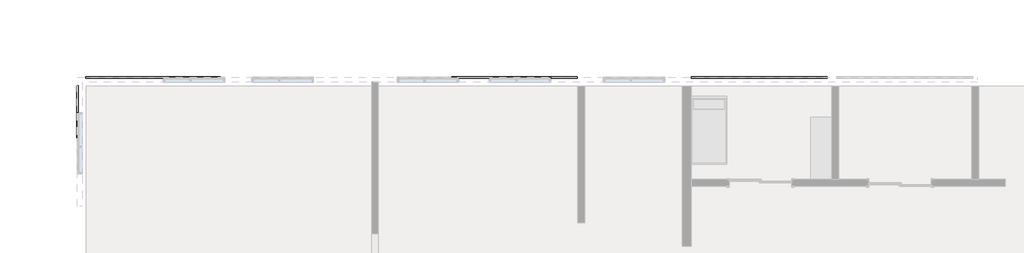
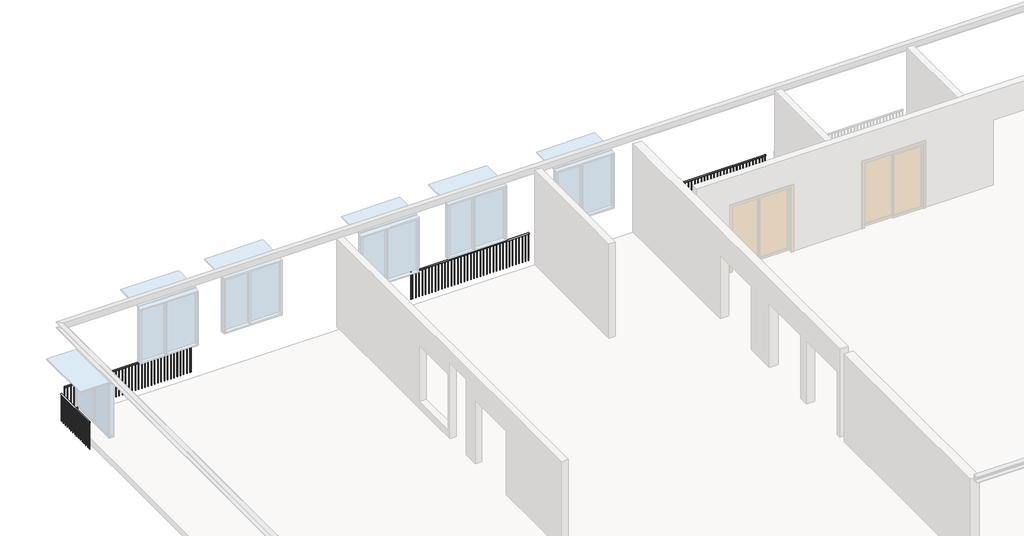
# One storey, part 4 of 5: 4 railings.
"""IFC4 building model written with IfcOpenShell, lengths in millimetres."""

from ifc_helpers import new_model, si_unit, point, frame, frame_2d, origin, place, context, project, spatial, polyline, circle_curve, trimmed, segment, composite_curve, outline, extrude, element, save

model = new_model("IFC4")

# Units and contexts
model_context = context("Model", 3, world=origin())
ifc_project = project(units=[si_unit("LENGTHUNIT", "METRE", prefix="MILLI")], contexts=[model_context])

# Site, building, storey
site = spatial("IfcSite", under=ifc_project)
building = spatial("IfcBuilding", under=site)
storey = spatial("IfcBuildingStorey", under=building, Name="3階", Elevation=36100.0)

# Railings
placement = place(None, origin())
element("IfcRailing", 1, ObjectType="900mm", at=placement, inside=storey, context=model_context, shape_type="SweptSolid", body=[
    extrude(outline(composite_curve([segment(trimmed(circle_curve(frame_2d((18700.0, 36980.0)), 20.0), [point((18680.0, 36980.0))], [point((18720.0, 36980.0))], False, "CARTESIAN"), True, "CONTINUOUS"), segment(trimmed(circle_curve(frame_2d((18700.0, 36980.0)), 20.0), [point((18720.0, 36980.0))], [point((18680.0, 36980.0))], False, "CARTESIAN"), True, "CONTINUOUS")], self_intersect=False)), frame((20364.6062665, 0.0, 0.0), z_axis=(1.0, 0.0, 0.0), x_axis=(0.0, 1.0, 0.0)), (0.0, 0.0, 1.0), 3988.7971578),
    extrude(outline(polyline([(24259.6062665, 18695.0), (24259.6062665, 18705.0), (24269.6062665, 18705.0), (24269.6062665, 18695.0), (24259.6062665, 18695.0)])), frame((0.0, 0.0, 36100.0), z_axis=(0.0, 0.0, 1.0), x_axis=(1.0, 0.0, 0.0)), (0.0, 0.0, 1.0), 860.0),
    extrude(outline(polyline([(24159.6062665, 18695.0), (24159.6062665, 18705.0), (24169.6062665, 18705.0), (24169.6062665, 18695.0), (24159.6062665, 18695.0)])), frame((0.0, 0.0, 36100.0), z_axis=(0.0, 0.0, 1.0), x_axis=(1.0, 0.0, 0.0)), (0.0, 0.0, 1.0), 860.0),
    extrude(outline(polyline([(24059.6062665, 18695.0), (24059.6062665, 18705.0), (24069.6062665, 18705.0), (24069.6062665, 18695.0), (24059.6062665, 18695.0)])), frame((0.0, 0.0, 36100.0), z_axis=(0.0, 0.0, 1.0), x_axis=(1.0, 0.0, 0.0)), (0.0, 0.0, 1.0), 860.0),
    extrude(outline(polyline([(23959.6062665, 18695.0), (23959.6062665, 18705.0), (23969.6062665, 18705.0), (23969.6062665, 18695.0), (23959.6062665, 18695.0)])), frame((0.0, 0.0, 36100.0), z_axis=(0.0, 0.0, 1.0), x_axis=(1.0, 0.0, 0.0)), (0.0, 0.0, 1.0), 860.0),
    extrude(outline(polyline([(23859.6062665, 18695.0), (23859.6062665, 18705.0), (23869.6062665, 18705.0), (23869.6062665, 18695.0), (23859.6062665, 18695.0)])), frame((0.0, 0.0, 36100.0), z_axis=(0.0, 0.0, 1.0), x_axis=(1.0, 0.0, 0.0)), (0.0, 0.0, 1.0), 860.0),
    extrude(outline(polyline([(23759.6062665, 18695.0), (23759.6062665, 18705.0), (23769.6062665, 18705.0), (23769.6062665, 18695.0), (23759.6062665, 18695.0)])), frame((0.0, 0.0, 36100.0), z_axis=(0.0, 0.0, 1.0), x_axis=(1.0, 0.0, 0.0)), (0.0, 0.0, 1.0), 860.0),
    extrude(outline(polyline([(23659.6062665, 18695.0), (23659.6062665, 18705.0), (23669.6062665, 18705.0), (23669.6062665, 18695.0), (23659.6062665, 18695.0)])), frame((0.0, 0.0, 36100.0), z_axis=(0.0, 0.0, 1.0), x_axis=(1.0, 0.0, 0.0)), (0.0, 0.0, 1.0), 860.0),
    extrude(outline(polyline([(23559.6062665, 18695.0), (23559.6062665, 18705.0), (23569.6062665, 18705.0), (23569.6062665, 18695.0), (23559.6062665, 18695.0)])), frame((0.0, 0.0, 36100.0), z_axis=(0.0, 0.0, 1.0), x_axis=(1.0, 0.0, 0.0)), (0.0, 0.0, 1.0), 860.0),
    extrude(outline(polyline([(23459.6062665, 18695.0), (23459.6062665, 18705.0), (23469.6062665, 18705.0), (23469.6062665, 18695.0), (23459.6062665, 18695.0)])), frame((0.0, 0.0, 36100.0), z_axis=(0.0, 0.0, 1.0), x_axis=(1.0, 0.0, 0.0)), (0.0, 0.0, 1.0), 860.0),
    extrude(outline(polyline([(23359.6062665, 18695.0), (23359.6062665, 18705.0), (23369.6062665, 18705.0), (23369.6062665, 18695.0), (23359.6062665, 18695.0)])), frame((0.0, 0.0, 36100.0), z_axis=(0.0, 0.0, 1.0), x_axis=(1.0, 0.0, 0.0)), (0.0, 0.0, 1.0), 860.0),
    extrude(outline(polyline([(23259.6062665, 18695.0), (23259.6062665, 18705.0), (23269.6062665, 18705.0), (23269.6062665, 18695.0), (23259.6062665, 18695.0)])), frame((0.0, 0.0, 36100.0), z_axis=(0.0, 0.0, 1.0), x_axis=(1.0, 0.0, 0.0)), (0.0, 0.0, 1.0), 860.0),
    extrude(outline(polyline([(23159.6062665, 18695.0), (23159.6062665, 18705.0), (23169.6062665, 18705.0), (23169.6062665, 18695.0), (23159.6062665, 18695.0)])), frame((0.0, 0.0, 36100.0), z_axis=(0.0, 0.0, 1.0), x_axis=(1.0, 0.0, 0.0)), (0.0, 0.0, 1.0), 860.0),
    extrude(outline(polyline([(23059.6062665, 18695.0), (23059.6062665, 18705.0), (23069.6062665, 18705.0), (23069.6062665, 18695.0), (23059.6062665, 18695.0)])), frame((0.0, 0.0, 36100.0), z_axis=(0.0, 0.0, 1.0), x_axis=(1.0, 0.0, 0.0)), (0.0, 0.0, 1.0), 860.0),
    extrude(outline(polyline([(22959.6062665, 18695.0), (22959.6062665, 18705.0), (22969.6062665, 18705.0), (22969.6062665, 18695.0), (22959.6062665, 18695.0)])), frame((0.0, 0.0, 36100.0), z_axis=(0.0, 0.0, 1.0), x_axis=(1.0, 0.0, 0.0)), (0.0, 0.0, 1.0), 860.0),
    extrude(outline(polyline([(22859.6062665, 18695.0), (22859.6062665, 18705.0), (22869.6062665, 18705.0), (22869.6062665, 18695.0), (22859.6062665, 18695.0)])), frame((0.0, 0.0, 36100.0), z_axis=(0.0, 0.0, 1.0), x_axis=(1.0, 0.0, 0.0)), (0.0, 0.0, 1.0), 860.0),
    extrude(outline(polyline([(22759.6062665, 18695.0), (22759.6062665, 18705.0), (22769.6062665, 18705.0), (22769.6062665, 18695.0), (22759.6062665, 18695.0)])), frame((0.0, 0.0, 36100.0), z_axis=(0.0, 0.0, 1.0), x_axis=(1.0, 0.0, 0.0)), (0.0, 0.0, 1.0), 860.0),
    extrude(outline(polyline([(22659.6062665, 18695.0), (22659.6062665, 18705.0), (22669.6062665, 18705.0), (22669.6062665, 18695.0), (22659.6062665, 18695.0)])), frame((0.0, 0.0, 36100.0), z_axis=(0.0, 0.0, 1.0), x_axis=(1.0, 0.0, 0.0)), (0.0, 0.0, 1.0), 860.0),
    extrude(outline(polyline([(22559.6062665, 18695.0), (22559.6062665, 18705.0), (22569.6062665, 18705.0), (22569.6062665, 18695.0), (22559.6062665, 18695.0)])), frame((0.0, 0.0, 36100.0), z_axis=(0.0, 0.0, 1.0), x_axis=(1.0, 0.0, 0.0)), (0.0, 0.0, 1.0), 860.0),
    extrude(outline(polyline([(22459.6062665, 18695.0), (22459.6062665, 18705.0), (22469.6062665, 18705.0), (22469.6062665, 18695.0), (22459.6062665, 18695.0)])), frame((0.0, 0.0, 36100.0), z_axis=(0.0, 0.0, 1.0), x_axis=(1.0, 0.0, 0.0)), (0.0, 0.0, 1.0), 860.0),
    extrude(outline(polyline([(22359.6062665, 18695.0), (22359.6062665, 18705.0), (22369.6062665, 18705.0), (22369.6062665, 18695.0), (22359.6062665, 18695.0)])), frame((0.0, 0.0, 36100.0), z_axis=(0.0, 0.0, 1.0), x_axis=(1.0, 0.0, 0.0)), (0.0, 0.0, 1.0), 860.0),
    extrude(outline(polyline([(22259.6062665, 18695.0), (22259.6062665, 18705.0), (22269.6062665, 18705.0), (22269.6062665, 18695.0), (22259.6062665, 18695.0)])), frame((0.0, 0.0, 36100.0), z_axis=(0.0, 0.0, 1.0), x_axis=(1.0, 0.0, 0.0)), (0.0, 0.0, 1.0), 860.0),
    extrude(outline(polyline([(22159.6062665, 18695.0), (22159.6062665, 18705.0), (22169.6062665, 18705.0), (22169.6062665, 18695.0), (22159.6062665, 18695.0)])), frame((0.0, 0.0, 36100.0), z_axis=(0.0, 0.0, 1.0), x_axis=(1.0, 0.0, 0.0)), (0.0, 0.0, 1.0), 860.0),
    extrude(outline(polyline([(22059.6062665, 18695.0), (22059.6062665, 18705.0), (22069.6062665, 18705.0), (22069.6062665, 18695.0), (22059.6062665, 18695.0)])), frame((0.0, 0.0, 36100.0), z_axis=(0.0, 0.0, 1.0), x_axis=(1.0, 0.0, 0.0)), (0.0, 0.0, 1.0), 860.0),
    extrude(outline(polyline([(21959.6062665, 18695.0), (21959.6062665, 18705.0), (21969.6062665, 18705.0), (21969.6062665, 18695.0), (21959.6062665, 18695.0)])), frame((0.0, 0.0, 36100.0), z_axis=(0.0, 0.0, 1.0), x_axis=(1.0, 0.0, 0.0)), (0.0, 0.0, 1.0), 860.0),
    extrude(outline(polyline([(21859.6062665, 18695.0), (21859.6062665, 18705.0), (21869.6062665, 18705.0), (21869.6062665, 18695.0), (21859.6062665, 18695.0)])), frame((0.0, 0.0, 36100.0), z_axis=(0.0, 0.0, 1.0), x_axis=(1.0, 0.0, 0.0)), (0.0, 0.0, 1.0), 860.0),
    extrude(outline(polyline([(21759.6062665, 18695.0), (21759.6062665, 18705.0), (21769.6062665, 18705.0), (21769.6062665, 18695.0), (21759.6062665, 18695.0)])), frame((0.0, 0.0, 36100.0), z_axis=(0.0, 0.0, 1.0), x_axis=(1.0, 0.0, 0.0)), (0.0, 0.0, 1.0), 860.0),
    extrude(outline(polyline([(21659.6062665, 18695.0), (21659.6062665, 18705.0), (21669.6062665, 18705.0), (21669.6062665, 18695.0), (21659.6062665, 18695.0)])), frame((0.0, 0.0, 36100.0), z_axis=(0.0, 0.0, 1.0), x_axis=(1.0, 0.0, 0.0)), (0.0, 0.0, 1.0), 860.0),
    extrude(outline(polyline([(21559.6062665, 18695.0), (21559.6062665, 18705.0), (21569.6062665, 18705.0), (21569.6062665, 18695.0), (21559.6062665, 18695.0)])), frame((0.0, 0.0, 36100.0), z_axis=(0.0, 0.0, 1.0), x_axis=(1.0, 0.0, 0.0)), (0.0, 0.0, 1.0), 860.0),
    extrude(outline(polyline([(21459.6062665, 18695.0), (21459.6062665, 18705.0), (21469.6062665, 18705.0), (21469.6062665, 18695.0), (21459.6062665, 18695.0)])), frame((0.0, 0.0, 36100.0), z_axis=(0.0, 0.0, 1.0), x_axis=(1.0, 0.0, 0.0)), (0.0, 0.0, 1.0), 860.0),
    extrude(outline(polyline([(21359.6062665, 18695.0), (21359.6062665, 18705.0), (21369.6062665, 18705.0), (21369.6062665, 18695.0), (21359.6062665, 18695.0)])), frame((0.0, 0.0, 36100.0), z_axis=(0.0, 0.0, 1.0), x_axis=(1.0, 0.0, 0.0)), (0.0, 0.0, 1.0), 860.0),
    extrude(outline(polyline([(21259.6062665, 18695.0), (21259.6062665, 18705.0), (21269.6062665, 18705.0), (21269.6062665, 18695.0), (21259.6062665, 18695.0)])), frame((0.0, 0.0, 36100.0), z_axis=(0.0, 0.0, 1.0), x_axis=(1.0, 0.0, 0.0)), (0.0, 0.0, 1.0), 860.0),
    extrude(outline(polyline([(21159.6062665, 18695.0), (21159.6062665, 18705.0), (21169.6062665, 18705.0), (21169.6062665, 18695.0), (21159.6062665, 18695.0)])), frame((0.0, 0.0, 36100.0), z_axis=(0.0, 0.0, 1.0), x_axis=(1.0, 0.0, 0.0)), (0.0, 0.0, 1.0), 860.0),
    extrude(outline(polyline([(21059.6062665, 18695.0), (21059.6062665, 18705.0), (21069.6062665, 18705.0), (21069.6062665, 18695.0), (21059.6062665, 18695.0)])), frame((0.0, 0.0, 36100.0), z_axis=(0.0, 0.0, 1.0), x_axis=(1.0, 0.0, 0.0)), (0.0, 0.0, 1.0), 860.0),
    extrude(outline(polyline([(20959.6062665, 18695.0), (20959.6062665, 18705.0), (20969.6062665, 18705.0), (20969.6062665, 18695.0), (20959.6062665, 18695.0)])), frame((0.0, 0.0, 36100.0), z_axis=(0.0, 0.0, 1.0), x_axis=(1.0, 0.0, 0.0)), (0.0, 0.0, 1.0), 860.0),
    extrude(outline(polyline([(20859.6062665, 18695.0), (20859.6062665, 18705.0), (20869.6062665, 18705.0), (20869.6062665, 18695.0), (20859.6062665, 18695.0)])), frame((0.0, 0.0, 36100.0), z_axis=(0.0, 0.0, 1.0), x_axis=(1.0, 0.0, 0.0)), (0.0, 0.0, 1.0), 860.0),
    extrude(outline(polyline([(20759.6062665, 18695.0), (20759.6062665, 18705.0), (20769.6062665, 18705.0), (20769.6062665, 18695.0), (20759.6062665, 18695.0)])), frame((0.0, 0.0, 36100.0), z_axis=(0.0, 0.0, 1.0), x_axis=(1.0, 0.0, 0.0)), (0.0, 0.0, 1.0), 860.0),
    extrude(outline(polyline([(20659.6062665, 18695.0), (20659.6062665, 18705.0), (20669.6062665, 18705.0), (20669.6062665, 18695.0), (20659.6062665, 18695.0)])), frame((0.0, 0.0, 36100.0), z_axis=(0.0, 0.0, 1.0), x_axis=(1.0, 0.0, 0.0)), (0.0, 0.0, 1.0), 860.0),
    extrude(outline(polyline([(20559.6062665, 18695.0), (20559.6062665, 18705.0), (20569.6062665, 18705.0), (20569.6062665, 18695.0), (20559.6062665, 18695.0)])), frame((0.0, 0.0, 36100.0), z_axis=(0.0, 0.0, 1.0), x_axis=(1.0, 0.0, 0.0)), (0.0, 0.0, 1.0), 860.0),
    extrude(outline(polyline([(20459.6062665, 18695.0), (20459.6062665, 18705.0), (20469.6062665, 18705.0), (20469.6062665, 18695.0), (20459.6062665, 18695.0)])), frame((0.0, 0.0, 36100.0), z_axis=(0.0, 0.0, 1.0), x_axis=(1.0, 0.0, 0.0)), (0.0, 0.0, 1.0), 860.0),
    extrude(outline(polyline([(24338.4034243, 18695.0), (24338.4034243, 18705.0), (24348.4034243, 18705.0), (24348.4034243, 18695.0), (24338.4034243, 18695.0)])), frame((0.0, 0.0, 36100.0), z_axis=(0.0, 0.0, 1.0), x_axis=(1.0, 0.0, 0.0)), (0.0, 0.0, 1.0), 860.0),
    extrude(outline(polyline([(20369.6062665, 18695.0), (20369.6062665, 18705.0), (20379.6062665, 18705.0), (20379.6062665, 18695.0), (20369.6062665, 18695.0)])), frame((0.0, 0.0, 36100.0), z_axis=(0.0, 0.0, 1.0), x_axis=(1.0, 0.0, 0.0)), (0.0, 0.0, 1.0), 860.0),
])
element("IfcRailing", 2, ObjectType="900mm", at=placement, inside=storey, context=model_context, shape_type="SweptSolid", body=[
    extrude(outline(composite_curve([segment(trimmed(circle_curve(frame_2d((18700.0, 36980.0)), 20.0), [point((18680.0, 36980.0))], [point((18720.0, 36980.0))], False, "CARTESIAN"), True, "CONTINUOUS"), segment(trimmed(circle_curve(frame_2d((18700.0, 36980.0)), 20.0), [point((18720.0, 36980.0))], [point((18680.0, 36980.0))], False, "CARTESIAN"), True, "CONTINUOUS")], self_intersect=False)), frame((2614.6057353, 0.0, 0.0), z_axis=(1.0, 0.0, 0.0), x_axis=(0.0, 1.0, 0.0)), (0.0, 0.0, 1.0), 3940.0588639),
    extrude(outline(polyline([(6509.6057353, 18695.0), (6509.6057353, 18705.0), (6519.6057353, 18705.0), (6519.6057353, 18695.0), (6509.6057353, 18695.0)])), frame((0.0, 0.0, 36100.0), z_axis=(0.0, 0.0, 1.0), x_axis=(1.0, 0.0, 0.0)), (0.0, 0.0, 1.0), 860.0),
    extrude(outline(polyline([(6409.6057353, 18695.0), (6409.6057353, 18705.0), (6419.6057353, 18705.0), (6419.6057353, 18695.0), (6409.6057353, 18695.0)])), frame((0.0, 0.0, 36100.0), z_axis=(0.0, 0.0, 1.0), x_axis=(1.0, 0.0, 0.0)), (0.0, 0.0, 1.0), 860.0),
    extrude(outline(polyline([(6309.6057353, 18695.0), (6309.6057353, 18705.0), (6319.6057353, 18705.0), (6319.6057353, 18695.0), (6309.6057353, 18695.0)])), frame((0.0, 0.0, 36100.0), z_axis=(0.0, 0.0, 1.0), x_axis=(1.0, 0.0, 0.0)), (0.0, 0.0, 1.0), 860.0),
    extrude(outline(polyline([(6209.6057353, 18695.0), (6209.6057353, 18705.0), (6219.6057353, 18705.0), (6219.6057353, 18695.0), (6209.6057353, 18695.0)])), frame((0.0, 0.0, 36100.0), z_axis=(0.0, 0.0, 1.0), x_axis=(1.0, 0.0, 0.0)), (0.0, 0.0, 1.0), 860.0),
    extrude(outline(polyline([(6109.6057353, 18695.0), (6109.6057353, 18705.0), (6119.6057353, 18705.0), (6119.6057353, 18695.0), (6109.6057353, 18695.0)])), frame((0.0, 0.0, 36100.0), z_axis=(0.0, 0.0, 1.0), x_axis=(1.0, 0.0, 0.0)), (0.0, 0.0, 1.0), 860.0),
    extrude(outline(polyline([(6009.6057353, 18695.0), (6009.6057353, 18705.0), (6019.6057353, 18705.0), (6019.6057353, 18695.0), (6009.6057353, 18695.0)])), frame((0.0, 0.0, 36100.0), z_axis=(0.0, 0.0, 1.0), x_axis=(1.0, 0.0, 0.0)), (0.0, 0.0, 1.0), 860.0),
    extrude(outline(polyline([(5909.6057353, 18695.0), (5909.6057353, 18705.0), (5919.6057353, 18705.0), (5919.6057353, 18695.0), (5909.6057353, 18695.0)])), frame((0.0, 0.0, 36100.0), z_axis=(0.0, 0.0, 1.0), x_axis=(1.0, 0.0, 0.0)), (0.0, 0.0, 1.0), 860.0),
    extrude(outline(polyline([(5809.6057353, 18695.0), (5809.6057353, 18705.0), (5819.6057353, 18705.0), (5819.6057353, 18695.0), (5809.6057353, 18695.0)])), frame((0.0, 0.0, 36100.0), z_axis=(0.0, 0.0, 1.0), x_axis=(1.0, 0.0, 0.0)), (0.0, 0.0, 1.0), 860.0),
    extrude(outline(polyline([(5709.6057353, 18695.0), (5709.6057353, 18705.0), (5719.6057353, 18705.0), (5719.6057353, 18695.0), (5709.6057353, 18695.0)])), frame((0.0, 0.0, 36100.0), z_axis=(0.0, 0.0, 1.0), x_axis=(1.0, 0.0, 0.0)), (0.0, 0.0, 1.0), 860.0),
    extrude(outline(polyline([(5609.6057353, 18695.0), (5609.6057353, 18705.0), (5619.6057353, 18705.0), (5619.6057353, 18695.0), (5609.6057353, 18695.0)])), frame((0.0, 0.0, 36100.0), z_axis=(0.0, 0.0, 1.0), x_axis=(1.0, 0.0, 0.0)), (0.0, 0.0, 1.0), 860.0),
    extrude(outline(polyline([(5509.6057353, 18695.0), (5509.6057353, 18705.0), (5519.6057353, 18705.0), (5519.6057353, 18695.0), (5509.6057353, 18695.0)])), frame((0.0, 0.0, 36100.0), z_axis=(0.0, 0.0, 1.0), x_axis=(1.0, 0.0, 0.0)), (0.0, 0.0, 1.0), 860.0),
    extrude(outline(polyline([(5409.6057353, 18695.0), (5409.6057353, 18705.0), (5419.6057353, 18705.0), (5419.6057353, 18695.0), (5409.6057353, 18695.0)])), frame((0.0, 0.0, 36100.0), z_axis=(0.0, 0.0, 1.0), x_axis=(1.0, 0.0, 0.0)), (0.0, 0.0, 1.0), 860.0),
    extrude(outline(polyline([(5309.6057353, 18695.0), (5309.6057353, 18705.0), (5319.6057353, 18705.0), (5319.6057353, 18695.0), (5309.6057353, 18695.0)])), frame((0.0, 0.0, 36100.0), z_axis=(0.0, 0.0, 1.0), x_axis=(1.0, 0.0, 0.0)), (0.0, 0.0, 1.0), 860.0),
    extrude(outline(polyline([(5209.6057353, 18695.0), (5209.6057353, 18705.0), (5219.6057353, 18705.0), (5219.6057353, 18695.0), (5209.6057353, 18695.0)])), frame((0.0, 0.0, 36100.0), z_axis=(0.0, 0.0, 1.0), x_axis=(1.0, 0.0, 0.0)), (0.0, 0.0, 1.0), 860.0),
    extrude(outline(polyline([(5109.6057353, 18695.0), (5109.6057353, 18705.0), (5119.6057353, 18705.0), (5119.6057353, 18695.0), (5109.6057353, 18695.0)])), frame((0.0, 0.0, 36100.0), z_axis=(0.0, 0.0, 1.0), x_axis=(1.0, 0.0, 0.0)), (0.0, 0.0, 1.0), 860.0),
    extrude(outline(polyline([(5009.6057353, 18695.0), (5009.6057353, 18705.0), (5019.6057353, 18705.0), (5019.6057353, 18695.0), (5009.6057353, 18695.0)])), frame((0.0, 0.0, 36100.0), z_axis=(0.0, 0.0, 1.0), x_axis=(1.0, 0.0, 0.0)), (0.0, 0.0, 1.0), 860.0),
    extrude(outline(polyline([(4909.6057353, 18695.0), (4909.6057353, 18705.0), (4919.6057353, 18705.0), (4919.6057353, 18695.0), (4909.6057353, 18695.0)])), frame((0.0, 0.0, 36100.0), z_axis=(0.0, 0.0, 1.0), x_axis=(1.0, 0.0, 0.0)), (0.0, 0.0, 1.0), 860.0),
    extrude(outline(polyline([(4809.6057353, 18695.0), (4809.6057353, 18705.0), (4819.6057353, 18705.0), (4819.6057353, 18695.0), (4809.6057353, 18695.0)])), frame((0.0, 0.0, 36100.0), z_axis=(0.0, 0.0, 1.0), x_axis=(1.0, 0.0, 0.0)), (0.0, 0.0, 1.0), 860.0),
    extrude(outline(polyline([(4709.6057353, 18695.0), (4709.6057353, 18705.0), (4719.6057353, 18705.0), (4719.6057353, 18695.0), (4709.6057353, 18695.0)])), frame((0.0, 0.0, 36100.0), z_axis=(0.0, 0.0, 1.0), x_axis=(1.0, 0.0, 0.0)), (0.0, 0.0, 1.0), 860.0),
    extrude(outline(polyline([(4609.6057353, 18695.0), (4609.6057353, 18705.0), (4619.6057353, 18705.0), (4619.6057353, 18695.0), (4609.6057353, 18695.0)])), frame((0.0, 0.0, 36100.0), z_axis=(0.0, 0.0, 1.0), x_axis=(1.0, 0.0, 0.0)), (0.0, 0.0, 1.0), 860.0),
    extrude(outline(polyline([(4509.6057353, 18695.0), (4509.6057353, 18705.0), (4519.6057353, 18705.0), (4519.6057353, 18695.0), (4509.6057353, 18695.0)])), frame((0.0, 0.0, 36100.0), z_axis=(0.0, 0.0, 1.0), x_axis=(1.0, 0.0, 0.0)), (0.0, 0.0, 1.0), 860.0),
    extrude(outline(polyline([(4409.6057353, 18695.0), (4409.6057353, 18705.0), (4419.6057353, 18705.0), (4419.6057353, 18695.0), (4409.6057353, 18695.0)])), frame((0.0, 0.0, 36100.0), z_axis=(0.0, 0.0, 1.0), x_axis=(1.0, 0.0, 0.0)), (0.0, 0.0, 1.0), 860.0),
    extrude(outline(polyline([(4309.6057353, 18695.0), (4309.6057353, 18705.0), (4319.6057353, 18705.0), (4319.6057353, 18695.0), (4309.6057353, 18695.0)])), frame((0.0, 0.0, 36100.0), z_axis=(0.0, 0.0, 1.0), x_axis=(1.0, 0.0, 0.0)), (0.0, 0.0, 1.0), 860.0),
    extrude(outline(polyline([(4209.6057353, 18695.0), (4209.6057353, 18705.0), (4219.6057353, 18705.0), (4219.6057353, 18695.0), (4209.6057353, 18695.0)])), frame((0.0, 0.0, 36100.0), z_axis=(0.0, 0.0, 1.0), x_axis=(1.0, 0.0, 0.0)), (0.0, 0.0, 1.0), 860.0),
    extrude(outline(polyline([(4109.6057353, 18695.0), (4109.6057353, 18705.0), (4119.6057353, 18705.0), (4119.6057353, 18695.0), (4109.6057353, 18695.0)])), frame((0.0, 0.0, 36100.0), z_axis=(0.0, 0.0, 1.0), x_axis=(1.0, 0.0, 0.0)), (0.0, 0.0, 1.0), 860.0),
    extrude(outline(polyline([(4009.6057353, 18695.0), (4009.6057353, 18705.0), (4019.6057353, 18705.0), (4019.6057353, 18695.0), (4009.6057353, 18695.0)])), frame((0.0, 0.0, 36100.0), z_axis=(0.0, 0.0, 1.0), x_axis=(1.0, 0.0, 0.0)), (0.0, 0.0, 1.0), 860.0),
    extrude(outline(polyline([(3909.6057353, 18695.0), (3909.6057353, 18705.0), (3919.6057353, 18705.0), (3919.6057353, 18695.0), (3909.6057353, 18695.0)])), frame((0.0, 0.0, 36100.0), z_axis=(0.0, 0.0, 1.0), x_axis=(1.0, 0.0, 0.0)), (0.0, 0.0, 1.0), 860.0),
    extrude(outline(polyline([(3809.6057353, 18695.0), (3809.6057353, 18705.0), (3819.6057353, 18705.0), (3819.6057353, 18695.0), (3809.6057353, 18695.0)])), frame((0.0, 0.0, 36100.0), z_axis=(0.0, 0.0, 1.0), x_axis=(1.0, 0.0, 0.0)), (0.0, 0.0, 1.0), 860.0),
    extrude(outline(polyline([(3709.6057353, 18695.0), (3709.6057353, 18705.0), (3719.6057353, 18705.0), (3719.6057353, 18695.0), (3709.6057353, 18695.0)])), frame((0.0, 0.0, 36100.0), z_axis=(0.0, 0.0, 1.0), x_axis=(1.0, 0.0, 0.0)), (0.0, 0.0, 1.0), 860.0),
    extrude(outline(polyline([(3609.6057353, 18695.0), (3609.6057353, 18705.0), (3619.6057353, 18705.0), (3619.6057353, 18695.0), (3609.6057353, 18695.0)])), frame((0.0, 0.0, 36100.0), z_axis=(0.0, 0.0, 1.0), x_axis=(1.0, 0.0, 0.0)), (0.0, 0.0, 1.0), 860.0),
    extrude(outline(polyline([(3509.6057353, 18695.0), (3509.6057353, 18705.0), (3519.6057353, 18705.0), (3519.6057353, 18695.0), (3509.6057353, 18695.0)])), frame((0.0, 0.0, 36100.0), z_axis=(0.0, 0.0, 1.0), x_axis=(1.0, 0.0, 0.0)), (0.0, 0.0, 1.0), 860.0),
    extrude(outline(polyline([(3409.6057353, 18695.0), (3409.6057353, 18705.0), (3419.6057353, 18705.0), (3419.6057353, 18695.0), (3409.6057353, 18695.0)])), frame((0.0, 0.0, 36100.0), z_axis=(0.0, 0.0, 1.0), x_axis=(1.0, 0.0, 0.0)), (0.0, 0.0, 1.0), 860.0),
    extrude(outline(polyline([(3309.6057353, 18695.0), (3309.6057353, 18705.0), (3319.6057353, 18705.0), (3319.6057353, 18695.0), (3309.6057353, 18695.0)])), frame((0.0, 0.0, 36100.0), z_axis=(0.0, 0.0, 1.0), x_axis=(1.0, 0.0, 0.0)), (0.0, 0.0, 1.0), 860.0),
    extrude(outline(polyline([(3209.6057353, 18695.0), (3209.6057353, 18705.0), (3219.6057353, 18705.0), (3219.6057353, 18695.0), (3209.6057353, 18695.0)])), frame((0.0, 0.0, 36100.0), z_axis=(0.0, 0.0, 1.0), x_axis=(1.0, 0.0, 0.0)), (0.0, 0.0, 1.0), 860.0),
    extrude(outline(polyline([(3109.6057353, 18695.0), (3109.6057353, 18705.0), (3119.6057353, 18705.0), (3119.6057353, 18695.0), (3109.6057353, 18695.0)])), frame((0.0, 0.0, 36100.0), z_axis=(0.0, 0.0, 1.0), x_axis=(1.0, 0.0, 0.0)), (0.0, 0.0, 1.0), 860.0),
    extrude(outline(polyline([(3009.6057353, 18695.0), (3009.6057353, 18705.0), (3019.6057353, 18705.0), (3019.6057353, 18695.0), (3009.6057353, 18695.0)])), frame((0.0, 0.0, 36100.0), z_axis=(0.0, 0.0, 1.0), x_axis=(1.0, 0.0, 0.0)), (0.0, 0.0, 1.0), 860.0),
    extrude(outline(polyline([(2909.6057353, 18695.0), (2909.6057353, 18705.0), (2919.6057353, 18705.0), (2919.6057353, 18695.0), (2909.6057353, 18695.0)])), frame((0.0, 0.0, 36100.0), z_axis=(0.0, 0.0, 1.0), x_axis=(1.0, 0.0, 0.0)), (0.0, 0.0, 1.0), 860.0),
    extrude(outline(polyline([(2809.6057353, 18695.0), (2809.6057353, 18705.0), (2819.6057353, 18705.0), (2819.6057353, 18695.0), (2809.6057353, 18695.0)])), frame((0.0, 0.0, 36100.0), z_axis=(0.0, 0.0, 1.0), x_axis=(1.0, 0.0, 0.0)), (0.0, 0.0, 1.0), 860.0),
    extrude(outline(polyline([(2709.6057353, 18695.0), (2709.6057353, 18705.0), (2719.6057353, 18705.0), (2719.6057353, 18695.0), (2709.6057353, 18695.0)])), frame((0.0, 0.0, 36100.0), z_axis=(0.0, 0.0, 1.0), x_axis=(1.0, 0.0, 0.0)), (0.0, 0.0, 1.0), 860.0),
    extrude(outline(polyline([(6539.6645991, 18695.0), (6539.6645991, 18705.0), (6549.6645991, 18705.0), (6549.6645991, 18695.0), (6539.6645991, 18695.0)])), frame((0.0, 0.0, 36100.0), z_axis=(0.0, 0.0, 1.0), x_axis=(1.0, 0.0, 0.0)), (0.0, 0.0, 1.0), 860.0),
    extrude(outline(polyline([(2619.6057353, 18695.0), (2619.6057353, 18705.0), (2629.6057353, 18705.0), (2629.6057353, 18695.0), (2619.6057353, 18695.0)])), frame((0.0, 0.0, 36100.0), z_axis=(0.0, 0.0, 1.0), x_axis=(1.0, 0.0, 0.0)), (0.0, 0.0, 1.0), 860.0),
])
element("IfcRailing", 3, ObjectType="900mm", at=placement, inside=storey, context=model_context, shape_type="SweptSolid", body=[
    extrude(outline(composite_curve([segment(trimmed(circle_curve(frame_2d((18700.0, 36980.0)), 20.0), [point((18720.0, 36980.0))], [point((18680.0, 36980.0))], False, "CARTESIAN"), True, "CONTINUOUS"), segment(trimmed(circle_curve(frame_2d((18700.0, 36980.0)), 20.0), [point((18680.0, 36980.0))], [point((18720.0, 36980.0))], False, "CARTESIAN"), True, "CONTINUOUS")], self_intersect=False)), frame((13352.1904782, 0.0, 0.0), z_axis=(1.0, 0.0, 0.0), x_axis=(0.0, 1.0, 0.0)), (0.0, 0.0, 1.0), 3665.0),
    extrude(outline(polyline([(13422.1904782, 18695.0), (13412.1904782, 18695.0), (13412.1904782, 18705.0), (13422.1904782, 18705.0), (13422.1904782, 18695.0)])), frame((0.0, 0.0, 36100.0), z_axis=(0.0, 0.0, 1.0), x_axis=(1.0, 0.0, 0.0)), (0.0, 0.0, 1.0), 860.0),
    extrude(outline(polyline([(13522.1904782, 18695.0), (13512.1904782, 18695.0), (13512.1904782, 18705.0), (13522.1904782, 18705.0), (13522.1904782, 18695.0)])), frame((0.0, 0.0, 36100.0), z_axis=(0.0, 0.0, 1.0), x_axis=(1.0, 0.0, 0.0)), (0.0, 0.0, 1.0), 860.0),
    extrude(outline(polyline([(13622.1904782, 18695.0), (13612.1904782, 18695.0), (13612.1904782, 18705.0), (13622.1904782, 18705.0), (13622.1904782, 18695.0)])), frame((0.0, 0.0, 36100.0), z_axis=(0.0, 0.0, 1.0), x_axis=(1.0, 0.0, 0.0)), (0.0, 0.0, 1.0), 860.0),
    extrude(outline(polyline([(13722.1904782, 18695.0), (13712.1904782, 18695.0), (13712.1904782, 18705.0), (13722.1904782, 18705.0), (13722.1904782, 18695.0)])), frame((0.0, 0.0, 36100.0), z_axis=(0.0, 0.0, 1.0), x_axis=(1.0, 0.0, 0.0)), (0.0, 0.0, 1.0), 860.0),
    extrude(outline(polyline([(13822.1904782, 18695.0), (13812.1904782, 18695.0), (13812.1904782, 18705.0), (13822.1904782, 18705.0), (13822.1904782, 18695.0)])), frame((0.0, 0.0, 36100.0), z_axis=(0.0, 0.0, 1.0), x_axis=(1.0, 0.0, 0.0)), (0.0, 0.0, 1.0), 860.0),
    extrude(outline(polyline([(13922.1904782, 18695.0), (13912.1904782, 18695.0), (13912.1904782, 18705.0), (13922.1904782, 18705.0), (13922.1904782, 18695.0)])), frame((0.0, 0.0, 36100.0), z_axis=(0.0, 0.0, 1.0), x_axis=(1.0, 0.0, 0.0)), (0.0, 0.0, 1.0), 860.0),
    extrude(outline(polyline([(14022.1904782, 18695.0), (14012.1904782, 18695.0), (14012.1904782, 18705.0), (14022.1904782, 18705.0), (14022.1904782, 18695.0)])), frame((0.0, 0.0, 36100.0), z_axis=(0.0, 0.0, 1.0), x_axis=(1.0, 0.0, 0.0)), (0.0, 0.0, 1.0), 860.0),
    extrude(outline(polyline([(14122.1904782, 18695.0), (14112.1904782, 18695.0), (14112.1904782, 18705.0), (14122.1904782, 18705.0), (14122.1904782, 18695.0)])), frame((0.0, 0.0, 36100.0), z_axis=(0.0, 0.0, 1.0), x_axis=(1.0, 0.0, 0.0)), (0.0, 0.0, 1.0), 860.0),
    extrude(outline(polyline([(14222.1904782, 18695.0), (14212.1904782, 18695.0), (14212.1904782, 18705.0), (14222.1904782, 18705.0), (14222.1904782, 18695.0)])), frame((0.0, 0.0, 36100.0), z_axis=(0.0, 0.0, 1.0), x_axis=(1.0, 0.0, 0.0)), (0.0, 0.0, 1.0), 860.0),
    extrude(outline(polyline([(14322.1904782, 18695.0), (14312.1904782, 18695.0), (14312.1904782, 18705.0), (14322.1904782, 18705.0), (14322.1904782, 18695.0)])), frame((0.0, 0.0, 36100.0), z_axis=(0.0, 0.0, 1.0), x_axis=(1.0, 0.0, 0.0)), (0.0, 0.0, 1.0), 860.0),
    extrude(outline(polyline([(14422.1904782, 18695.0), (14412.1904782, 18695.0), (14412.1904782, 18705.0), (14422.1904782, 18705.0), (14422.1904782, 18695.0)])), frame((0.0, 0.0, 36100.0), z_axis=(0.0, 0.0, 1.0), x_axis=(1.0, 0.0, 0.0)), (0.0, 0.0, 1.0), 860.0),
    extrude(outline(polyline([(14522.1904782, 18695.0), (14512.1904782, 18695.0), (14512.1904782, 18705.0), (14522.1904782, 18705.0), (14522.1904782, 18695.0)])), frame((0.0, 0.0, 36100.0), z_axis=(0.0, 0.0, 1.0), x_axis=(1.0, 0.0, 0.0)), (0.0, 0.0, 1.0), 860.0),
    extrude(outline(polyline([(14622.1904782, 18695.0), (14612.1904782, 18695.0), (14612.1904782, 18705.0), (14622.1904782, 18705.0), (14622.1904782, 18695.0)])), frame((0.0, 0.0, 36100.0), z_axis=(0.0, 0.0, 1.0), x_axis=(1.0, 0.0, 0.0)), (0.0, 0.0, 1.0), 860.0),
    extrude(outline(polyline([(14722.1904782, 18695.0), (14712.1904782, 18695.0), (14712.1904782, 18705.0), (14722.1904782, 18705.0), (14722.1904782, 18695.0)])), frame((0.0, 0.0, 36100.0), z_axis=(0.0, 0.0, 1.0), x_axis=(1.0, 0.0, 0.0)), (0.0, 0.0, 1.0), 860.0),
    extrude(outline(polyline([(14822.1904782, 18695.0), (14812.1904782, 18695.0), (14812.1904782, 18705.0), (14822.1904782, 18705.0), (14822.1904782, 18695.0)])), frame((0.0, 0.0, 36100.0), z_axis=(0.0, 0.0, 1.0), x_axis=(1.0, 0.0, 0.0)), (0.0, 0.0, 1.0), 860.0),
    extrude(outline(polyline([(14922.1904782, 18695.0), (14912.1904782, 18695.0), (14912.1904782, 18705.0), (14922.1904782, 18705.0), (14922.1904782, 18695.0)])), frame((0.0, 0.0, 36100.0), z_axis=(0.0, 0.0, 1.0), x_axis=(1.0, 0.0, 0.0)), (0.0, 0.0, 1.0), 860.0),
    extrude(outline(polyline([(15022.1904782, 18695.0), (15012.1904782, 18695.0), (15012.1904782, 18705.0), (15022.1904782, 18705.0), (15022.1904782, 18695.0)])), frame((0.0, 0.0, 36100.0), z_axis=(0.0, 0.0, 1.0), x_axis=(1.0, 0.0, 0.0)), (0.0, 0.0, 1.0), 860.0),
    extrude(outline(polyline([(15122.1904782, 18695.0), (15112.1904782, 18695.0), (15112.1904782, 18705.0), (15122.1904782, 18705.0), (15122.1904782, 18695.0)])), frame((0.0, 0.0, 36100.0), z_axis=(0.0, 0.0, 1.0), x_axis=(1.0, 0.0, 0.0)), (0.0, 0.0, 1.0), 860.0),
    extrude(outline(polyline([(15222.1904782, 18695.0), (15212.1904782, 18695.0), (15212.1904782, 18705.0), (15222.1904782, 18705.0), (15222.1904782, 18695.0)])), frame((0.0, 0.0, 36100.0), z_axis=(0.0, 0.0, 1.0), x_axis=(1.0, 0.0, 0.0)), (0.0, 0.0, 1.0), 860.0),
    extrude(outline(polyline([(15322.1904782, 18695.0), (15312.1904782, 18695.0), (15312.1904782, 18705.0), (15322.1904782, 18705.0), (15322.1904782, 18695.0)])), frame((0.0, 0.0, 36100.0), z_axis=(0.0, 0.0, 1.0), x_axis=(1.0, 0.0, 0.0)), (0.0, 0.0, 1.0), 860.0),
    extrude(outline(polyline([(15422.1904782, 18695.0), (15412.1904782, 18695.0), (15412.1904782, 18705.0), (15422.1904782, 18705.0), (15422.1904782, 18695.0)])), frame((0.0, 0.0, 36100.0), z_axis=(0.0, 0.0, 1.0), x_axis=(1.0, 0.0, 0.0)), (0.0, 0.0, 1.0), 860.0),
    extrude(outline(polyline([(15522.1904782, 18695.0), (15512.1904782, 18695.0), (15512.1904782, 18705.0), (15522.1904782, 18705.0), (15522.1904782, 18695.0)])), frame((0.0, 0.0, 36100.0), z_axis=(0.0, 0.0, 1.0), x_axis=(1.0, 0.0, 0.0)), (0.0, 0.0, 1.0), 860.0),
    extrude(outline(polyline([(15622.1904782, 18695.0), (15612.1904782, 18695.0), (15612.1904782, 18705.0), (15622.1904782, 18705.0), (15622.1904782, 18695.0)])), frame((0.0, 0.0, 36100.0), z_axis=(0.0, 0.0, 1.0), x_axis=(1.0, 0.0, 0.0)), (0.0, 0.0, 1.0), 860.0),
    extrude(outline(polyline([(15722.1904782, 18695.0), (15712.1904782, 18695.0), (15712.1904782, 18705.0), (15722.1904782, 18705.0), (15722.1904782, 18695.0)])), frame((0.0, 0.0, 36100.0), z_axis=(0.0, 0.0, 1.0), x_axis=(1.0, 0.0, 0.0)), (0.0, 0.0, 1.0), 860.0),
    extrude(outline(polyline([(15822.1904782, 18695.0), (15812.1904782, 18695.0), (15812.1904782, 18705.0), (15822.1904782, 18705.0), (15822.1904782, 18695.0)])), frame((0.0, 0.0, 36100.0), z_axis=(0.0, 0.0, 1.0), x_axis=(1.0, 0.0, 0.0)), (0.0, 0.0, 1.0), 860.0),
    extrude(outline(polyline([(15922.1904782, 18695.0), (15912.1904782, 18695.0), (15912.1904782, 18705.0), (15922.1904782, 18705.0), (15922.1904782, 18695.0)])), frame((0.0, 0.0, 36100.0), z_axis=(0.0, 0.0, 1.0), x_axis=(1.0, 0.0, 0.0)), (0.0, 0.0, 1.0), 860.0),
    extrude(outline(polyline([(16022.1904782, 18695.0), (16012.1904782, 18695.0), (16012.1904782, 18705.0), (16022.1904782, 18705.0), (16022.1904782, 18695.0)])), frame((0.0, 0.0, 36100.0), z_axis=(0.0, 0.0, 1.0), x_axis=(1.0, 0.0, 0.0)), (0.0, 0.0, 1.0), 860.0),
    extrude(outline(polyline([(16122.1904782, 18695.0), (16112.1904782, 18695.0), (16112.1904782, 18705.0), (16122.1904782, 18705.0), (16122.1904782, 18695.0)])), frame((0.0, 0.0, 36100.0), z_axis=(0.0, 0.0, 1.0), x_axis=(1.0, 0.0, 0.0)), (0.0, 0.0, 1.0), 860.0),
    extrude(outline(polyline([(16222.1904782, 18695.0), (16212.1904782, 18695.0), (16212.1904782, 18705.0), (16222.1904782, 18705.0), (16222.1904782, 18695.0)])), frame((0.0, 0.0, 36100.0), z_axis=(0.0, 0.0, 1.0), x_axis=(1.0, 0.0, 0.0)), (0.0, 0.0, 1.0), 860.0),
    extrude(outline(polyline([(16322.1904782, 18695.0), (16312.1904782, 18695.0), (16312.1904782, 18705.0), (16322.1904782, 18705.0), (16322.1904782, 18695.0)])), frame((0.0, 0.0, 36100.0), z_axis=(0.0, 0.0, 1.0), x_axis=(1.0, 0.0, 0.0)), (0.0, 0.0, 1.0), 860.0),
    extrude(outline(polyline([(16422.1904782, 18695.0), (16412.1904782, 18695.0), (16412.1904782, 18705.0), (16422.1904782, 18705.0), (16422.1904782, 18695.0)])), frame((0.0, 0.0, 36100.0), z_axis=(0.0, 0.0, 1.0), x_axis=(1.0, 0.0, 0.0)), (0.0, 0.0, 1.0), 860.0),
    extrude(outline(polyline([(16522.1904782, 18695.0), (16512.1904782, 18695.0), (16512.1904782, 18705.0), (16522.1904782, 18705.0), (16522.1904782, 18695.0)])), frame((0.0, 0.0, 36100.0), z_axis=(0.0, 0.0, 1.0), x_axis=(1.0, 0.0, 0.0)), (0.0, 0.0, 1.0), 860.0),
    extrude(outline(polyline([(16622.1904782, 18695.0), (16612.1904782, 18695.0), (16612.1904782, 18705.0), (16622.1904782, 18705.0), (16622.1904782, 18695.0)])), frame((0.0, 0.0, 36100.0), z_axis=(0.0, 0.0, 1.0), x_axis=(1.0, 0.0, 0.0)), (0.0, 0.0, 1.0), 860.0),
    extrude(outline(polyline([(16722.1904782, 18695.0), (16712.1904782, 18695.0), (16712.1904782, 18705.0), (16722.1904782, 18705.0), (16722.1904782, 18695.0)])), frame((0.0, 0.0, 36100.0), z_axis=(0.0, 0.0, 1.0), x_axis=(1.0, 0.0, 0.0)), (0.0, 0.0, 1.0), 860.0),
    extrude(outline(polyline([(16822.1904782, 18695.0), (16812.1904782, 18695.0), (16812.1904782, 18705.0), (16822.1904782, 18705.0), (16822.1904782, 18695.0)])), frame((0.0, 0.0, 36100.0), z_axis=(0.0, 0.0, 1.0), x_axis=(1.0, 0.0, 0.0)), (0.0, 0.0, 1.0), 860.0),
    extrude(outline(polyline([(16922.1904782, 18695.0), (16912.1904782, 18695.0), (16912.1904782, 18705.0), (16922.1904782, 18705.0), (16922.1904782, 18695.0)])), frame((0.0, 0.0, 36100.0), z_axis=(0.0, 0.0, 1.0), x_axis=(1.0, 0.0, 0.0)), (0.0, 0.0, 1.0), 860.0),
    extrude(outline(polyline([(13367.1904782, 18695.0), (13357.1904782, 18695.0), (13357.1904782, 18705.0), (13367.1904782, 18705.0), (13367.1904782, 18695.0)])), frame((0.0, 0.0, 36100.0), z_axis=(0.0, 0.0, 1.0), x_axis=(1.0, 0.0, 0.0)), (0.0, 0.0, 1.0), 860.0),
    extrude(outline(polyline([(17012.1904782, 18695.0), (17002.1904782, 18695.0), (17002.1904782, 18705.0), (17012.1904782, 18705.0), (17012.1904782, 18695.0)])), frame((0.0, 0.0, 36100.0), z_axis=(0.0, 0.0, 1.0), x_axis=(1.0, 0.0, 0.0)), (0.0, 0.0, 1.0), 860.0),
])
element("IfcRailing", 4, ObjectType="900mm", at=placement, inside=storey, context=model_context, shape_type="SweptSolid", body=[
    extrude(outline(composite_curve([segment(trimmed(circle_curve(frame_2d((36980.0, 2379.6057353)), 20.0), [point((36980.0, 2399.6057353))], [point((36980.0, 2359.6057353))], False, "CARTESIAN"), True, "CONTINUOUS"), segment(trimmed(circle_curve(frame_2d((36980.0, 2379.6057353)), 20.0), [point((36980.0, 2359.6057353))], [point((36980.0, 2399.6057353))], False, "CARTESIAN"), True, "CONTINUOUS")], self_intersect=False)), frame((0.0, 16929.8875971, 0.0), z_axis=(0.0, 1.0, 0.0), x_axis=(0.0, 0.0, 1.0)), (0.0, 0.0, 1.0), 1535.1124029),
    extrude(outline(polyline([(2384.6057353, 18424.8875971), (2374.6057353, 18424.8875971), (2374.6057353, 18434.8875971), (2384.6057353, 18434.8875971), (2384.6057353, 18424.8875971)])), frame((0.0, 0.0, 36100.0), z_axis=(0.0, 0.0, 1.0), x_axis=(1.0, 0.0, 0.0)), (0.0, 0.0, 1.0), 860.0),
    extrude(outline(polyline([(2384.6057353, 18324.8875971), (2374.6057353, 18324.8875971), (2374.6057353, 18334.8875971), (2384.6057353, 18334.8875971), (2384.6057353, 18324.8875971)])), frame((0.0, 0.0, 36100.0), z_axis=(0.0, 0.0, 1.0), x_axis=(1.0, 0.0, 0.0)), (0.0, 0.0, 1.0), 860.0),
    extrude(outline(polyline([(2384.6057353, 18224.8875971), (2374.6057353, 18224.8875971), (2374.6057353, 18234.8875971), (2384.6057353, 18234.8875971), (2384.6057353, 18224.8875971)])), frame((0.0, 0.0, 36100.0), z_axis=(0.0, 0.0, 1.0), x_axis=(1.0, 0.0, 0.0)), (0.0, 0.0, 1.0), 860.0),
    extrude(outline(polyline([(2384.6057353, 18124.8875971), (2374.6057353, 18124.8875971), (2374.6057353, 18134.8875971), (2384.6057353, 18134.8875971), (2384.6057353, 18124.8875971)])), frame((0.0, 0.0, 36100.0), z_axis=(0.0, 0.0, 1.0), x_axis=(1.0, 0.0, 0.0)), (0.0, 0.0, 1.0), 860.0),
    extrude(outline(polyline([(2384.6057353, 18024.8875971), (2374.6057353, 18024.8875971), (2374.6057353, 18034.8875971), (2384.6057353, 18034.8875971), (2384.6057353, 18024.8875971)])), frame((0.0, 0.0, 36100.0), z_axis=(0.0, 0.0, 1.0), x_axis=(1.0, 0.0, 0.0)), (0.0, 0.0, 1.0), 860.0),
    extrude(outline(polyline([(2384.6057353, 17924.8875971), (2374.6057353, 17924.8875971), (2374.6057353, 17934.8875971), (2384.6057353, 17934.8875971), (2384.6057353, 17924.8875971)])), frame((0.0, 0.0, 36100.0), z_axis=(0.0, 0.0, 1.0), x_axis=(1.0, 0.0, 0.0)), (0.0, 0.0, 1.0), 860.0),
    extrude(outline(polyline([(2384.6057353, 17824.8875971), (2374.6057353, 17824.8875971), (2374.6057353, 17834.8875971), (2384.6057353, 17834.8875971), (2384.6057353, 17824.8875971)])), frame((0.0, 0.0, 36100.0), z_axis=(0.0, 0.0, 1.0), x_axis=(1.0, 0.0, 0.0)), (0.0, 0.0, 1.0), 860.0),
    extrude(outline(polyline([(2384.6057353, 17724.8875971), (2374.6057353, 17724.8875971), (2374.6057353, 17734.8875971), (2384.6057353, 17734.8875971), (2384.6057353, 17724.8875971)])), frame((0.0, 0.0, 36100.0), z_axis=(0.0, 0.0, 1.0), x_axis=(1.0, 0.0, 0.0)), (0.0, 0.0, 1.0), 860.0),
    extrude(outline(polyline([(2384.6057353, 17624.8875971), (2374.6057353, 17624.8875971), (2374.6057353, 17634.8875971), (2384.6057353, 17634.8875971), (2384.6057353, 17624.8875971)])), frame((0.0, 0.0, 36100.0), z_axis=(0.0, 0.0, 1.0), x_axis=(1.0, 0.0, 0.0)), (0.0, 0.0, 1.0), 860.0),
    extrude(outline(polyline([(2384.6057353, 17524.8875971), (2374.6057353, 17524.8875971), (2374.6057353, 17534.8875971), (2384.6057353, 17534.8875971), (2384.6057353, 17524.8875971)])), frame((0.0, 0.0, 36100.0), z_axis=(0.0, 0.0, 1.0), x_axis=(1.0, 0.0, 0.0)), (0.0, 0.0, 1.0), 860.0),
    extrude(outline(polyline([(2384.6057353, 17424.8875971), (2374.6057353, 17424.8875971), (2374.6057353, 17434.8875971), (2384.6057353, 17434.8875971), (2384.6057353, 17424.8875971)])), frame((0.0, 0.0, 36100.0), z_axis=(0.0, 0.0, 1.0), x_axis=(1.0, 0.0, 0.0)), (0.0, 0.0, 1.0), 860.0),
    extrude(outline(polyline([(2384.6057353, 17324.8875971), (2374.6057353, 17324.8875971), (2374.6057353, 17334.8875971), (2384.6057353, 17334.8875971), (2384.6057353, 17324.8875971)])), frame((0.0, 0.0, 36100.0), z_axis=(0.0, 0.0, 1.0), x_axis=(1.0, 0.0, 0.0)), (0.0, 0.0, 1.0), 860.0),
    extrude(outline(polyline([(2384.6057353, 17224.8875971), (2374.6057353, 17224.8875971), (2374.6057353, 17234.8875971), (2384.6057353, 17234.8875971), (2384.6057353, 17224.8875971)])), frame((0.0, 0.0, 36100.0), z_axis=(0.0, 0.0, 1.0), x_axis=(1.0, 0.0, 0.0)), (0.0, 0.0, 1.0), 860.0),
    extrude(outline(polyline([(2384.6057353, 17124.8875971), (2374.6057353, 17124.8875971), (2374.6057353, 17134.8875971), (2384.6057353, 17134.8875971), (2384.6057353, 17124.8875971)])), frame((0.0, 0.0, 36100.0), z_axis=(0.0, 0.0, 1.0), x_axis=(1.0, 0.0, 0.0)), (0.0, 0.0, 1.0), 860.0),
    extrude(outline(polyline([(2384.6057353, 17024.8875971), (2374.6057353, 17024.8875971), (2374.6057353, 17034.8875971), (2384.6057353, 17034.8875971), (2384.6057353, 17024.8875971)])), frame((0.0, 0.0, 36100.0), z_axis=(0.0, 0.0, 1.0), x_axis=(1.0, 0.0, 0.0)), (0.0, 0.0, 1.0), 860.0),
    extrude(outline(polyline([(2384.6057353, 18450.0), (2374.6057353, 18450.0), (2374.6057353, 18460.0), (2384.6057353, 18460.0), (2384.6057353, 18450.0)])), frame((0.0, 0.0, 36100.0), z_axis=(0.0, 0.0, 1.0), x_axis=(1.0, 0.0, 0.0)), (0.0, 0.0, 1.0), 860.0),
    extrude(outline(polyline([(2384.6057353, 16934.8875971), (2374.6057353, 16934.8875971), (2374.6057353, 16944.8875971), (2384.6057353, 16944.8875971), (2384.6057353, 16934.8875971)])), frame((0.0, 0.0, 36100.0), z_axis=(0.0, 0.0, 1.0), x_axis=(1.0, 0.0, 0.0)), (0.0, 0.0, 1.0), 860.0),
])

save(model, "model.ifc")
